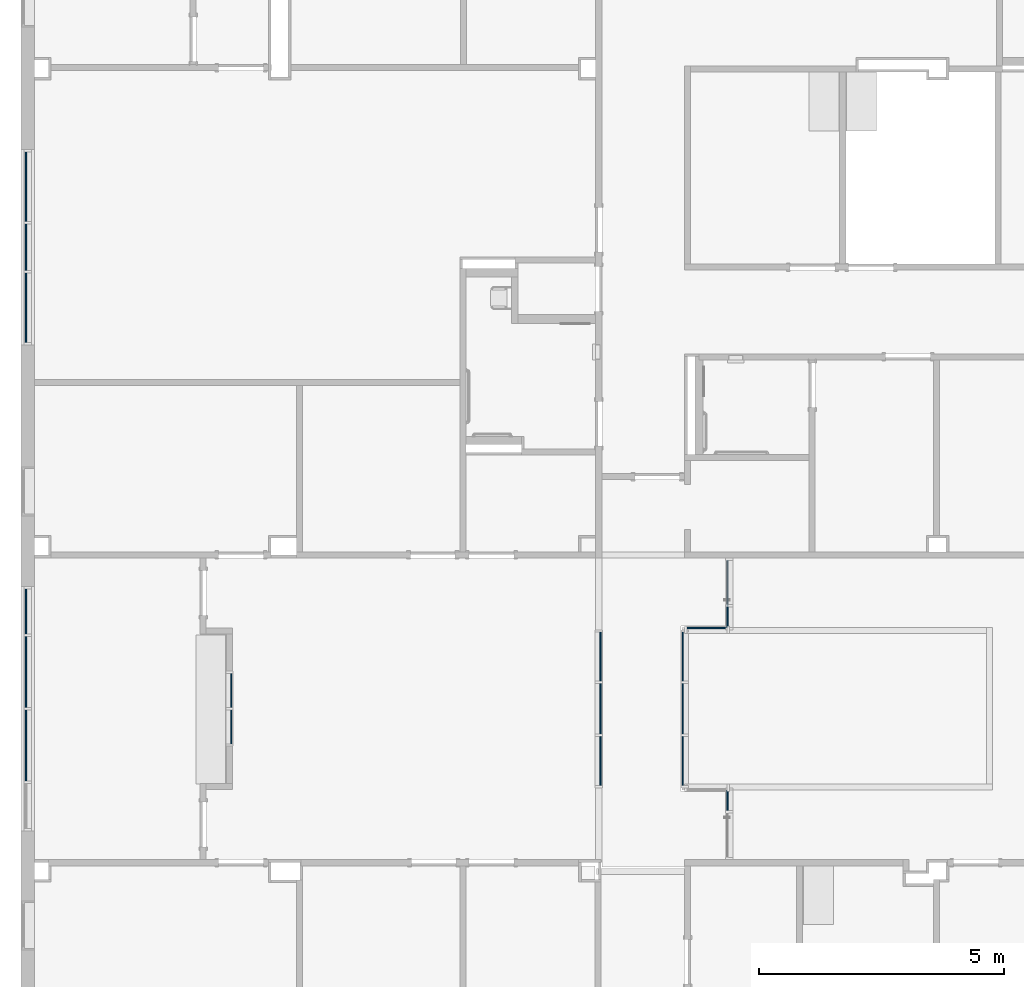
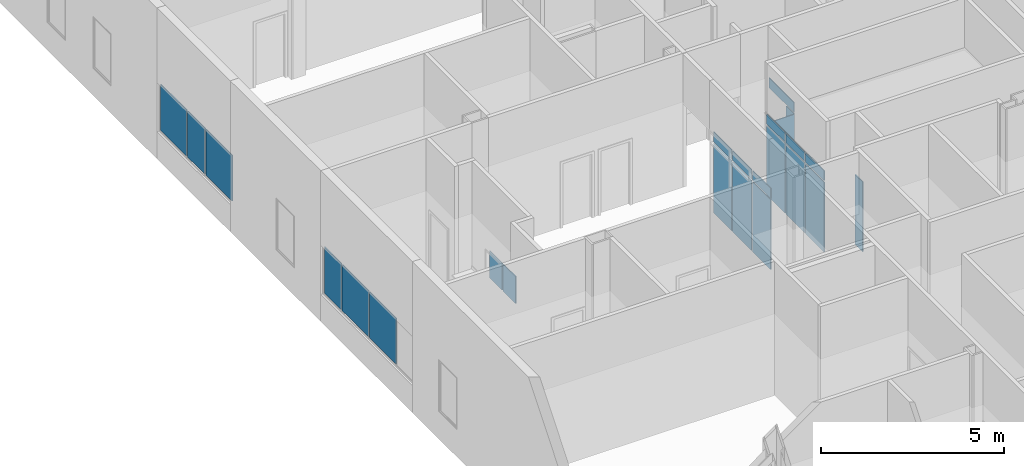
# One storey, part 16 of 82: 24 plates, 8 elements without a shape of their own.
"""IFC2X3 building model written with IfcOpenShell, lengths in metres."""

from ifc_helpers import new_model, entity, si_unit, converted_unit, frame, frame_2d, origin, origin_2d_with_axis, place, context, project, spatial, rectangle, extrude, source, transform, mapped, material, type_object, type_shapes, element, aggregate, save


model = new_model("IFC2X3")

# Units and contexts
model_context = context("Model", 3, precision=1e-09, world=origin())
plan_context = context("Plan", 3, precision=1e-09, world=origin())
ifc_project = project(units=[si_unit("LENGTHUNIT", "METRE"), si_unit("AREAUNIT", "SQUARE_METRE"), si_unit("VOLUMEUNIT", "CUBIC_METRE"), converted_unit("PLANEANGLEUNIT", "DEGREE", entity("IfcRatioMeasure", 0.01745329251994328), si_unit("PLANEANGLEUNIT", "RADIAN"), dimensions=[0, 0, 0, 0, 0, 0, 0]), si_unit("TIMEUNIT", "SECOND")], contexts=[model_context, plan_context])

# Site, building, storey
site_placement = place(None, origin())
site = spatial("IfcSite", under=ifc_project, at=site_placement, Name="Default", CompositionType="ELEMENT")
building_placement = place(site_placement, origin())
building = spatial("IfcBuilding", under=site, at=building_placement, CompositionType="ELEMENT")
storey_placement = place(building_placement, origin())
storey = spatial("IfcBuildingStorey", under=building, at=storey_placement, Name="First Floor", CompositionType="ELEMENT", Elevation=-3.531500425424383e-13)

# Curtain wall, plates
curtain_wall_1_placement = place(storey_placement, origin())
curtain_wall_1 = element("IfcCurtainWall", 1, at=curtain_wall_1_placement, inside=storey, Name="Curtain Wall:Storefront - Interior", ObjectType="Curtain Wall:Storefront - Interior")
ifc_material = material(Name="Glass")
plate_type_1 = type_object("IfcPlateType", Name="Glazed", PredefinedType="CURTAIN_PANEL")
shared_shape_1 = source(origin(), model_context, "Body", "SweptSolid", [
    extrude(rectangle(XDim=0.025, YDim=1.00166666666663, at=origin_2d_with_axis()), frame((0.0, 0.03700000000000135, 0.0), z_axis=(0.0, 0.0, 1.0), x_axis=(0.0, 1.0, 0.0)), (0.0, 0.0, 1.0), 2.324999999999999),
])
type_shapes(plate_type_1, [shared_shape_1])
plate_1_placement = place(storey_placement, frame((-38.72000000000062, 32.75916666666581, 0.05), z_axis=(0.0, 0.0, 1.0), x_axis=(0.0, 1.0, 0.0)))
plate_1 = element("IfcPlate", 2, at=plate_1_placement, type_object=plate_type_1, material=ifc_material, Name="System Panel:Glazed:Glazed", ObjectType="Glazed", context=model_context, shape_type="MappedRepresentation", body=[
    mapped(shared_shape_1, transform((0.0, 0.0, 0.0), scale=1.0)),
])
plate_2_placement = place(storey_placement, frame((-38.72000000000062, 30.63083333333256, 0.05), z_axis=(0.0, 0.0, 1.0), x_axis=(0.0, 1.0, 0.0)))
plate_2 = element("IfcPlate", 3, at=plate_2_placement, type_object=plate_type_1, material=ifc_material, Name="System Panel:Glazed:Glazed", ObjectType="Glazed", context=model_context, shape_type="MappedRepresentation", body=[
    mapped(shared_shape_1, transform((0.0, 0.0, 0.0), scale=1.0)),
])

curtain_wall_2_placement = place(storey_placement, origin())
curtain_wall_2 = element("IfcCurtainWall", 4, at=curtain_wall_2_placement, inside=storey, Name="Curtain Wall:Storefront - Interior", ObjectType="Curtain Wall:Storefront - Interior")
plate_3_placement = place(storey_placement, frame((-40.47500000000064, 32.75916666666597, 0.05), z_axis=(0.0, 0.0, 1.0), x_axis=(0.0, -1.0, 0.0)))
plate_3 = element("IfcPlate", 5, at=plate_3_placement, type_object=plate_type_1, material=ifc_material, Name="System Panel:Glazed:Glazed", ObjectType="Glazed", context=model_context, shape_type="MappedRepresentation", body=[
    mapped(shared_shape_1, transform((0.0, 0.0, 0.0), scale=1.0)),
])
plate_4_placement = place(storey_placement, frame((-40.47500000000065, 30.63083333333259, 0.05), z_axis=(0.0, 0.0, 1.0), x_axis=(0.0, -1.0, 0.0)))
plate_4 = element("IfcPlate", 6, at=plate_4_placement, type_object=plate_type_1, material=ifc_material, Name="System Panel:Glazed:Glazed", ObjectType="Glazed", context=model_context, shape_type="MappedRepresentation", body=[
    mapped(shared_shape_1, transform((0.0, 0.0, 0.0), scale=1.0)),
])

# Curtain wall, plate
curtain_wall_3_placement = place(storey_placement, origin())
curtain_wall_3 = element("IfcCurtainWall", 7, at=curtain_wall_3_placement, inside=storey, Name="Curtain Wall:Storefront", ObjectType="Curtain Wall:Storefront")
plate_type_2 = type_object("IfcPlateType", Name="Glazed", PredefinedType="CURTAIN_PANEL")
shared_shape_2 = source(origin(), model_context, "Body", "SweptSolid", [
    extrude(rectangle(XDim=0.025, YDim=0.9249999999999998, at=origin_2d_with_axis()), frame((0.0, 0.03700000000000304, 0.0), z_axis=(0.0, 0.0, 1.0), x_axis=(0.0, 1.0, 0.0)), (0.0, 0.0, 1.0), 1.535),
])
type_shapes(plate_type_2, [shared_shape_2])
plate_5_placement = place(storey_placement, frame((-52.14650000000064, 33.68245592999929, 0.9550000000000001), z_axis=(0.0, 0.0, 1.0), x_axis=(0.0, 1.0, 0.0)))
plate_5 = element("IfcPlate", 8, at=plate_5_placement, type_object=plate_type_2, material=ifc_material, Name="System Panel:Glazed:Glazed", ObjectType="Glazed", context=model_context, shape_type="MappedRepresentation", body=[
    mapped(shared_shape_2, transform((0.0, 0.0, 0.0), scale=1.0)),
])

# Plate
plate_type_3 = type_object("IfcPlateType", Name="Glazed", PredefinedType="CURTAIN_PANEL")
shared_shape_3 = source(origin(), model_context, "Body", "SweptSolid", [
    extrude(rectangle(XDim=0.025, YDim=1.001666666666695, at=origin_2d_with_axis()), frame((0.0, 0.03699999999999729, 0.0), z_axis=(0.0, 0.0, 1.0), x_axis=(0.0, 1.0, 0.0)), (0.0, 0.0, 1.0), 0.325),
])
type_shapes(plate_type_3, [shared_shape_3])
plate_6_placement = place(storey_placement, frame((-38.72000000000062, 30.63083333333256, 2.424999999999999), z_axis=(0.0, 0.0, 1.0), x_axis=(0.0, 1.0, 0.0)))
plate_6 = element("IfcPlate", 9, at=plate_6_placement, type_object=plate_type_3, material=ifc_material, Name="System Panel:Glazed:Glazed", ObjectType="Glazed", context=model_context, shape_type="MappedRepresentation", body=[
    mapped(shared_shape_3, transform((0.0, 0.0, 0.0), scale=1.0)),
])

plate_7_placement = place(storey_placement, frame((-38.72000000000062, 32.75916666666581, 2.424999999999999), z_axis=(0.0, 0.0, 1.0), x_axis=(0.0, 1.0, 0.0)))
plate_7 = element("IfcPlate", 10, at=plate_7_placement, type_object=plate_type_3, material=ifc_material, Name="System Panel:Glazed:Glazed", ObjectType="Glazed", context=model_context, shape_type="MappedRepresentation", body=[
    mapped(shared_shape_3, transform((0.0, 0.0, 0.0), scale=1.0)),
])

plate_8_placement = place(storey_placement, frame((-40.47500000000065, 30.63083333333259, 2.425), z_axis=(0.0, 0.0, 1.0), x_axis=(0.0, -1.0, 0.0)))
plate_8 = element("IfcPlate", 11, at=plate_8_placement, type_object=plate_type_3, material=ifc_material, Name="System Panel:Glazed:Glazed", ObjectType="Glazed", context=model_context, shape_type="MappedRepresentation", body=[
    mapped(shared_shape_3, transform((0.0, 0.0, 0.0), scale=1.0)),
])

plate_9_placement = place(storey_placement, frame((-40.47500000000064, 32.75916666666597, 2.425), z_axis=(0.0, 0.0, 1.0), x_axis=(0.0, -1.0, 0.0)))
plate_9 = element("IfcPlate", 12, at=plate_9_placement, type_object=plate_type_3, material=ifc_material, Name="System Panel:Glazed:Glazed", ObjectType="Glazed", context=model_context, shape_type="MappedRepresentation", body=[
    mapped(shared_shape_3, transform((0.0, 0.0, 0.0), scale=1.0)),
])

plate_type_4 = type_object("IfcPlateType", Name="Glazed", PredefinedType="CURTAIN_PANEL")
shared_shape_4 = source(origin(), model_context, "Body", "SweptSolid", [
    extrude(rectangle(XDim=0.025, YDim=1.026666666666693, at=origin_2d_with_axis()), frame((0.0, 0.03700000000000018, 0.0), z_axis=(0.0, 0.0, 1.0), x_axis=(0.0, 1.0, 0.0)), (0.0, 0.0, 1.0), 0.325),
])
type_shapes(plate_type_4, [shared_shape_4])
plate_10_placement = place(storey_placement, frame((-38.72000000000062, 31.69499999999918, 2.424999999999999), z_axis=(0.0, 0.0, 1.0), x_axis=(0.0, 1.0, 0.0)))
plate_10 = element("IfcPlate", 13, at=plate_10_placement, type_object=plate_type_4, material=ifc_material, Name="System Panel:Glazed:Glazed", ObjectType="Glazed", context=model_context, shape_type="MappedRepresentation", body=[
    mapped(shared_shape_4, transform((0.0, 0.0, 0.0), scale=1.0)),
])

plate_11_placement = place(storey_placement, frame((-40.47500000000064, 31.69499999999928, 2.425), z_axis=(0.0, 0.0, 1.0), x_axis=(0.0, -1.0, 0.0)))
plate_11 = element("IfcPlate", 14, at=plate_11_placement, type_object=plate_type_4, material=ifc_material, Name="System Panel:Glazed:Glazed", ObjectType="Glazed", context=model_context, shape_type="MappedRepresentation", body=[
    mapped(shared_shape_4, transform((0.0, 0.0, 0.0), scale=1.0)),
])

# Curtain wall, plates
curtain_wall_4_placement = place(storey_placement, origin())
curtain_wall_4 = element("IfcCurtainWall", 15, at=curtain_wall_4_placement, inside=storey, Name="Curtain Wall:Storefront - Interior", ObjectType="Curtain Wall:Storefront - Interior")
plate_type_5 = type_object("IfcPlateType", Name="Glazed", PredefinedType="CURTAIN_PANEL")
shared_shape_5 = source(origin(), model_context, "Body", "SweptSolid", [
    extrude(rectangle(XDim=0.025, YDim=0.6919999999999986, at=origin_2d_with_axis()), frame((0.0, 0.037, 0.0), z_axis=(0.0, 0.0, 1.0), x_axis=(0.0, 1.0, 0.0)), (0.0, 0.0, 1.0), 0.8999999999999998),
])
type_shapes(plate_type_5, [shared_shape_5])
plate_12_placement = place(storey_placement, frame((-48.02299986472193, 31.32599999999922, 1.05), z_axis=(0.0, 0.0, 1.0), x_axis=(0.0, -1.0, 0.0)))
plate_12 = element("IfcPlate", 16, at=plate_12_placement, type_object=plate_type_5, material=ifc_material, Name="System Panel:Glazed:Glazed", ObjectType="Glazed", context=model_context, shape_type="MappedRepresentation", body=[
    mapped(shared_shape_5, transform((0.0, 0.0, 0.0), scale=1.0)),
])
plate_13_placement = place(storey_placement, frame((-48.02299986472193, 32.06799999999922, 1.05), z_axis=(0.0, 0.0, 1.0), x_axis=(0.0, -1.0, 0.0)))
plate_13 = element("IfcPlate", 17, at=plate_13_placement, type_object=plate_type_5, material=ifc_material, Name="System Panel:Glazed:Glazed", ObjectType="Glazed", context=model_context, shape_type="MappedRepresentation", body=[
    mapped(shared_shape_5, transform((0.0, 0.0, 0.0), scale=1.0)),
])
aggregate(curtain_wall_4, [plate_12, plate_13])

# Plate
plate_type_6 = type_object("IfcPlateType", Name="Glazed", PredefinedType="CURTAIN_PANEL")
shared_shape_6 = source(origin(), model_context, "Body", "SweptSolid", [
    extrude(rectangle(XDim=0.025, YDim=1.026666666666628, at=origin_2d_with_axis()), frame((0.0, 0.03699999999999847, 0.0), z_axis=(0.0, 0.0, 1.0), x_axis=(0.0, 1.0, 0.0)), (0.0, 0.0, 1.0), 2.325),
])
type_shapes(plate_type_6, [shared_shape_6])
plate_14_placement = place(storey_placement, frame((-38.72000000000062, 31.69499999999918, 0.05), z_axis=(0.0, 0.0, 1.0), x_axis=(0.0, 1.0, 0.0)))
plate_14 = element("IfcPlate", 18, at=plate_14_placement, type_object=plate_type_6, material=ifc_material, Name="System Panel:Glazed:Glazed", ObjectType="Glazed", context=model_context, shape_type="MappedRepresentation", body=[
    mapped(shared_shape_6, transform((0.0, 0.0, 0.0), scale=1.0)),
])

aggregate(curtain_wall_1, [plate_1, plate_10, plate_6, plate_2, plate_14, plate_7])

plate_15_placement = place(storey_placement, frame((-40.47500000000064, 31.69499999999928, 0.05), z_axis=(0.0, 0.0, 1.0), x_axis=(0.0, -1.0, 0.0)))
plate_15 = element("IfcPlate", 19, at=plate_15_placement, type_object=plate_type_6, material=ifc_material, Name="System Panel:Glazed:Glazed", ObjectType="Glazed", context=model_context, shape_type="MappedRepresentation", body=[
    mapped(shared_shape_6, transform((0.0, 0.0, 0.0), scale=1.0)),
])

aggregate(curtain_wall_2, [plate_3, plate_4, plate_8, plate_11, plate_9, plate_15])

# Curtain wall, plates
curtain_wall_5_placement = place(storey_placement, origin())
curtain_wall_5 = element("IfcCurtainWall", 20, at=curtain_wall_5_placement, inside=storey, Name="Curtain Wall:Storefront", ObjectType="Curtain Wall:Storefront")
plate_type_7 = type_object("IfcPlateType", Name="Glazed", PredefinedType="CURTAIN_PANEL")
shared_shape_7 = source(origin(), model_context, "Body", "SweptSolid", [
    extrude(rectangle(XDim=0.025, YDim=1.424999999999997, at=origin_2d_with_axis()), frame((0.0, 0.03700000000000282, 0.0), z_axis=(0.0, 0.0, 1.0), x_axis=(0.0, 1.0, 0.0)), (0.0, 0.0, 1.0), 1.535),
])
type_shapes(plate_type_7, [shared_shape_7])
plate_16_placement = place(storey_placement, frame((-52.14650000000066, 39.89245228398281, 0.9550000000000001), z_axis=(0.0, 0.0, 1.0), x_axis=(0.0, 1.0, 0.0)))
plate_16 = element("IfcPlate", 21, at=plate_16_placement, type_object=plate_type_7, material=ifc_material, Name="System Panel:Glazed:Glazed", ObjectType="Glazed", context=model_context, shape_type="MappedRepresentation", body=[
    mapped(shared_shape_7, transform((0.0, 0.0, 0.0), scale=1.0)),
])
plate_17_placement = place(storey_placement, frame((-52.14650000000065, 42.36745228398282, 0.9550000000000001), z_axis=(0.0, 0.0, 1.0), x_axis=(0.0, 1.0, 0.0)))
plate_17 = element("IfcPlate", 22, at=plate_17_placement, type_object=plate_type_7, material=ifc_material, Name="System Panel:Glazed:Glazed", ObjectType="Glazed", context=model_context, shape_type="MappedRepresentation", body=[
    mapped(shared_shape_7, transform((0.0, 0.0, 0.0), scale=1.0)),
])

# Curtain wall, plate
curtain_wall_6_placement = place(storey_placement, origin())
curtain_wall_6 = element("IfcCurtainWall", 23, at=curtain_wall_6_placement, inside=storey, Name="Curtain Wall:Storefront - Interior", ObjectType="Curtain Wall:Storefront - Interior")
plate_type_8 = type_object("IfcPlateType", Name="Glazed", PredefinedType="CURTAIN_PANEL")
shared_shape_8 = source(origin(), model_context, "Body", "SweptSolid", [
    extrude(rectangle(XDim=0.025, YDim=0.8149999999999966, at=origin_2d_with_axis()), frame((0.0, 0.03699999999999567, 0.0), z_axis=(0.0, 0.0, 1.0), x_axis=(0.0, 1.0, 0.0)), (0.0, 0.0, 1.0), 2.324999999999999),
])
type_shapes(plate_type_8, [shared_shape_8])
plate_18_placement = place(storey_placement, frame((-38.26250000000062, 33.30999999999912, 0.05)))
plate_18 = element("IfcPlate", 24, at=plate_18_placement, type_object=plate_type_8, material=ifc_material, Name="System Panel:Glazed:Glazed", ObjectType="Glazed", context=model_context, shape_type="MappedRepresentation", body=[
    mapped(shared_shape_8, transform((0.0, 0.0, 0.0), scale=1.0)),
])
aggregate(curtain_wall_6, [plate_18])

# Plate
plate_type_9 = type_object("IfcPlateType", Name="Glazed", PredefinedType="CURTAIN_PANEL")
shared_shape_9 = source(origin(), model_context, "Body", "SweptSolid", [
    extrude(rectangle(XDim=0.025, YDim=1.45, at=origin_2d_with_axis()), frame((0.0, 0.03700000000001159, 0.0), z_axis=(0.0, 0.0, 1.0), x_axis=(0.0, 1.0, 0.0)), (0.0, 0.0, 1.0), 1.535),
])
type_shapes(plate_type_9, [shared_shape_9])
plate_19_placement = place(storey_placement, frame((-52.14650000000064, 32.44495592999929, 0.9550000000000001), z_axis=(0.0, 0.0, 1.0), x_axis=(0.0, 1.0, 0.0)))
plate_19 = element("IfcPlate", 25, at=plate_19_placement, type_object=plate_type_9, material=ifc_material, Name="System Panel:Glazed:Glazed", ObjectType="Glazed", context=model_context, shape_type="MappedRepresentation", body=[
    mapped(shared_shape_9, transform((0.0, 0.0, 0.0), scale=1.0)),
])

plate_20_placement = place(storey_placement, frame((-52.14650000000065, 30.94495592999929, 0.9550000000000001), z_axis=(0.0, 0.0, 1.0), x_axis=(0.0, 1.0, 0.0)))
plate_20 = element("IfcPlate", 26, at=plate_20_placement, type_object=plate_type_9, material=ifc_material, Name="System Panel:Glazed:Glazed", ObjectType="Glazed", context=model_context, shape_type="MappedRepresentation", body=[
    mapped(shared_shape_9, transform((0.0, 0.0, 0.0), scale=1.0)),
])

aggregate(curtain_wall_3, [plate_19, plate_20, plate_5])

plate_type_10 = type_object("IfcPlateType", Name="Glazed", PredefinedType="CURTAIN_PANEL")
shared_shape_10 = source(origin(), model_context, "Body", "SweptSolid", [
    extrude(rectangle(XDim=0.025, YDim=0.9500000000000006, at=origin_2d_with_axis()), frame((0.0, 0.03700000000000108, 0.0), z_axis=(0.0, 0.0, 1.0), x_axis=(0.0, 1.0, 0.0)), (0.0, 0.0, 1.0), 1.535),
])
type_shapes(plate_type_10, [shared_shape_10])
plate_21_placement = place(storey_placement, frame((-52.14650000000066, 41.12995228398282, 0.9550000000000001), z_axis=(0.0, 0.0, 1.0), x_axis=(0.0, 1.0, 0.0)))
plate_21 = element("IfcPlate", 27, at=plate_21_placement, type_object=plate_type_10, material=ifc_material, Name="System Panel:Glazed:Glazed", ObjectType="Glazed", context=model_context, shape_type="MappedRepresentation", body=[
    mapped(shared_shape_10, transform((0.0, 0.0, 0.0), scale=1.0)),
])

aggregate(curtain_wall_5, [plate_16, plate_21, plate_17])

# Curtain wall, plate
curtain_wall_7_placement = place(storey_placement, origin())
curtain_wall_7 = element("IfcCurtainWall", 28, at=curtain_wall_7_placement, inside=storey, Name="Curtain Wall:Storefront - Interior", ObjectType="Curtain Wall:Storefront - Interior")
plate_type_11 = type_object("IfcPlateType", Name="Glazed", PredefinedType="CURTAIN_PANEL")
shared_shape_11 = source(origin(), model_context, "Body", "SweptSolid", [
    extrude(rectangle(XDim=0.025, YDim=0.4199994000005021, at=origin_2d_with_axis()), frame((0.0, 0.03699999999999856, 0.0), z_axis=(0.0, 0.0, 1.0), x_axis=(0.0, 1.0, 0.0)), (0.0, 0.0, 1.0), 2.324999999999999),
])
type_shapes(plate_type_11, [shared_shape_11])
plate_22_placement = place(storey_placement, frame((-37.80500000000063, 33.56999969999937, 0.05), z_axis=(0.0, 0.0, 1.0), x_axis=(0.0, 1.0, 0.0)))
plate_22 = element("IfcPlate", 29, at=plate_22_placement, type_object=plate_type_11, material=ifc_material, Name="System Panel:Glazed:Glazed", ObjectType="Glazed", context=model_context, shape_type="MappedRepresentation", body=[
    mapped(shared_shape_11, transform((0.0, 0.0, 0.0), scale=1.0)),
])

curtain_wall_8_placement = place(storey_placement, origin())
curtain_wall_8 = element("IfcCurtainWall", 30, at=curtain_wall_8_placement, inside=storey, Name="Curtain Wall:Storefront - Interior", ObjectType="Curtain Wall:Storefront - Interior")
plate_type_12 = type_object("IfcPlateType", Name="Glazed", PredefinedType="CURTAIN_PANEL")
shared_shape_12 = source(origin(), model_context, "Body", "SweptSolid", [
    extrude(rectangle(XDim=0.025, YDim=0.4189994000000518, at=origin_2d_with_axis()), frame((0.0, 0.03700000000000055, 0.0), z_axis=(0.0, 0.0, 1.0), x_axis=(0.0, 1.0, 0.0)), (0.0, 0.0, 1.0), 2.325),
])
type_shapes(plate_type_12, [shared_shape_12])
plate_23_placement = place(storey_placement, frame((-37.80500000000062, 29.82050029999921, 0.05), z_axis=(0.0, 0.0, 1.0), x_axis=(0.0, 1.0, 0.0)))
plate_23 = element("IfcPlate", 31, at=plate_23_placement, type_object=plate_type_12, material=ifc_material, Name="System Panel:Glazed:Glazed", ObjectType="Glazed", context=model_context, shape_type="MappedRepresentation", body=[
    mapped(shared_shape_12, transform((0.0, 0.0, 0.0), scale=1.0)),
])
aggregate(curtain_wall_8, [plate_23])

# Plate
plate_type_13 = type_object("IfcPlateType", Name="Glazed", PredefinedType="CURTAIN_PANEL")
shared_shape_13 = source(origin(), model_context, "Body", "SweptSolid", [
    extrude(rectangle(XDim=0.325, YDim=1.369548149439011, at=frame_2d((0.0, 0.07992489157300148), x_axis=(1.0, 0.0))), frame((-0.07992489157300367, 0.02449999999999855, 0.1624999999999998), z_axis=(0.0, 1.0, 0.0), x_axis=(0.0, 0.0, 1.0)), (0.0, 0.0, 1.0), 0.025),
])
type_shapes(plate_type_13, [shared_shape_13])
plate_24_placement = place(storey_placement, frame((-37.80500000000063, 34.04477407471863, 2.424999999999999), z_axis=(0.0, 0.0, 1.0), x_axis=(0.0, 1.0, 0.0)))
plate_24 = element("IfcPlate", 32, at=plate_24_placement, type_object=plate_type_13, material=ifc_material, Name="System Panel:Glazed:Glazed", ObjectType="Glazed", context=model_context, shape_type="MappedRepresentation", body=[
    mapped(shared_shape_13, transform((0.0, 0.0, 0.0), scale=1.0)),
])

aggregate(curtain_wall_7, [plate_24, plate_22])

save(model, "model.ifc")
